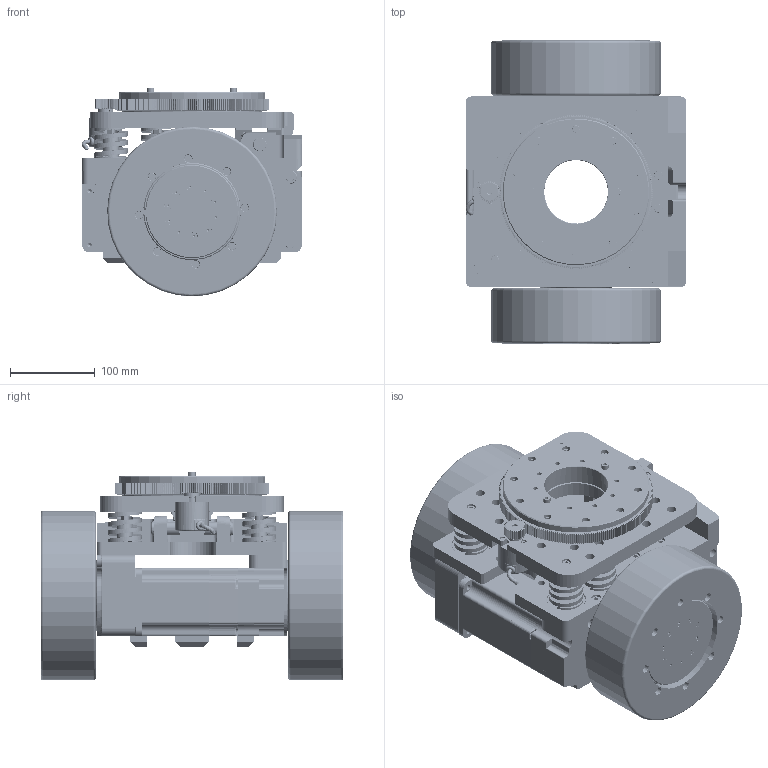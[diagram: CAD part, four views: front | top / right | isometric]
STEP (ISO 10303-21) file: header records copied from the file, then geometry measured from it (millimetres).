
FILE_DESCRIPTION (( 'STEP AP214' ), '1' );
FILE_NAME ('TEC-200P152SP30-32-2DDB.STEP', '2025-12-17T09:14:55', ( '' ), ( '' ), 'SwSTEP 2.0', 'SolidWorks 2021', '' );
FILE_SCHEMA (( 'AUTOMOTIVE_DESIGN' ));
Length unit declared in the file: millimetre
Products named in the file (1): TEC-200P152SP30-32-2DDB
Bounding box: 260.05 x 357 x 245.98 mm (x, y, z)
Volume: 9817679 mm3; surface area: 1418859.4 mm2
Topology: 126 solids, 172 shells, 8107 faces, 20346 edges, 12798 vertices
Faces by surface type: cylinder 2749, plane 2249, bspline 1066, cone 885, sphere 624, torus 534
Entity records: 446124 total; most frequent: CARTESIAN_POINT 166749, ORIENTED_EDGE 39756, DIRECTION 38528, EDGE_CURVE 19878, AXIS2_PLACEMENT_3D 15355, VERTEX_POINT 12694, EDGE_LOOP 9212, CIRCLE 8313
